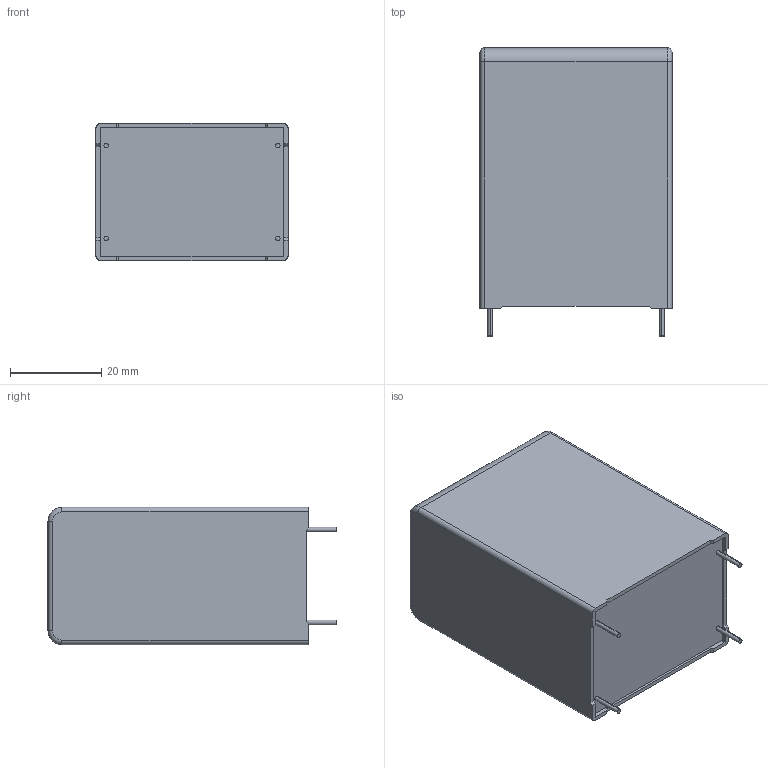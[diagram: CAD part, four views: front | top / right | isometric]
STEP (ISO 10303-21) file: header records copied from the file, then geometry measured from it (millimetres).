
FILE_DESCRIPTION (( 'STEP AP203' ), '1' );
FILE_NAME ('DC_Link_30x57x42_4pins20.3.step', '2017-04-03T16:00:09', ( 'work' ), ( 'Hewlett-Packard Company' ), 'SwSTEP 2.0', 'SolidWorks 2017', '' );
FILE_SCHEMA (( 'CONFIG_CONTROL_DESIGN' ));
Length unit declared in the file: millimetre
Products named in the file (1): DC_Link_30x57x42_4pins20.3
Bounding box: 42 x 63 x 30 mm (x, y, z)
Volume: 70438 mm3; surface area: 10609.6 mm2
Topology: 1 solids, 1 shells, 122 faces, 319 edges, 210 vertices
Faces by surface type: plane 82, cylinder 20, bspline 16, torus 4
Entity records: 4492 total; most frequent: CARTESIAN_POINT 1476, ORIENTED_EDGE 638, DIRECTION 545, EDGE_CURVE 319, LINE 243, VECTOR 243, VERTEX_POINT 210, AXIS2_PLACEMENT_3D 151
